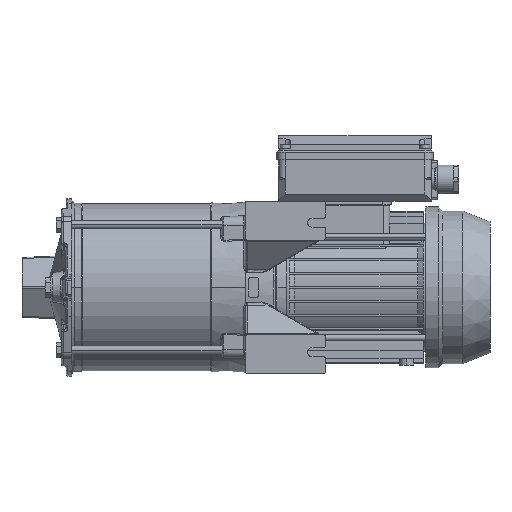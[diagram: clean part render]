
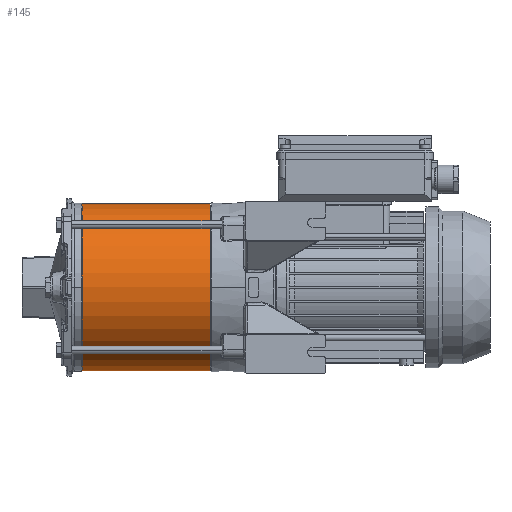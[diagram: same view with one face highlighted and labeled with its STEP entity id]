
A CAD part, front view. The second image highlights one B-rep face of the part: STEP entity #145.
In plain terms, the highlighted cylindrical face has radius 64.5 mm (diameter 129 mm), a partial arc.
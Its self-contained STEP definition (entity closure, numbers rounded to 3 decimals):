
#4=CARTESIAN_POINT('',(0.,0.,0.));
#5=DIRECTION('',(0.,0.,1.));
#6=DIRECTION('',(1.,0.,0.));
#7=AXIS2_PLACEMENT_3D('',#4,#5,#6);
#37=DIRECTION('',(0.,0.,1.));
#38=VECTOR('',#37,99.);
#39=CARTESIAN_POINT('',(64.5,0.,0.));
#40=LINE('',#39,#38);
#44=DIRECTION('',(0.,0.,1.));
#45=VECTOR('',#44,99.);
#46=CARTESIAN_POINT('',(-64.5,0.,0.));
#47=LINE('',#46,#45);
#51=CARTESIAN_POINT('',(0.,0.,99.));
#52=DIRECTION('',(0.,0.,1.));
#53=DIRECTION('',(1.,0.,0.));
#54=AXIS2_PLACEMENT_3D('',#51,#52,#53);
#97=CARTESIAN_POINT('',(64.5,0.,0.));
#98=CARTESIAN_POINT('',(-64.5,0.,0.));
#99=VERTEX_POINT('',#97);
#100=VERTEX_POINT('',#98);
#105=CARTESIAN_POINT('',(64.5,0.,99.));
#106=CARTESIAN_POINT('',(-64.5,0.,99.));
#107=VERTEX_POINT('',#105);
#108=VERTEX_POINT('',#106);
#131=CARTESIAN_POINT('',(0.,0.,0.));
#132=DIRECTION('',(0.,0.,1.));
#133=DIRECTION('',(1.,0.,0.));
#134=AXIS2_PLACEMENT_3D('',#131,#132,#133);
#135=CYLINDRICAL_SURFACE('',#134,64.5);
#136=ORIENTED_EDGE('',*,*,#118,.F.);
#138=ORIENTED_EDGE('',*,*,#137,.T.);
#140=ORIENTED_EDGE('',*,*,#139,.T.);
#142=ORIENTED_EDGE('',*,*,#141,.F.);
#143=EDGE_LOOP('',(#136,#138,#140,#142));
#144=FACE_OUTER_BOUND('',#143,.F.);
#8=CIRCLE('',#7,64.5);
#55=CIRCLE('',#54,64.5);
#118=EDGE_CURVE('',#99,#100,#8,.T.);
#137=EDGE_CURVE('',#99,#107,#40,.T.);
#139=EDGE_CURVE('',#107,#108,#55,.T.);
#141=EDGE_CURVE('',#100,#108,#47,.T.);
#145=ADVANCED_FACE('',(#144),#135,.T.);
